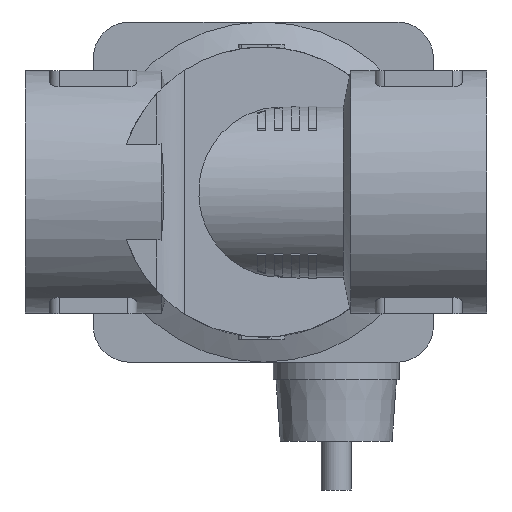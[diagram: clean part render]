
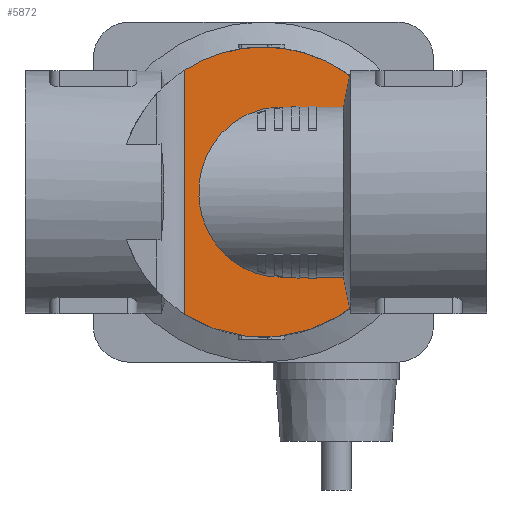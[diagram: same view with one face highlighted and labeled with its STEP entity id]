
A CAD part, front view. The second image highlights one B-rep face of the part: STEP entity #5872.
In plain terms, the highlighted planar face has unit normal (0.724, -0.69, 0).
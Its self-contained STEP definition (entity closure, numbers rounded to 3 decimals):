
#62=ELLIPSE('',#6176,43.243,29.85);
#67=ELLIPSE('',#6188,43.243,29.85);
#78=ELLIPSE('',#6218,24.186,17.5);
#85=ELLIPSE('',#6319,34.552,25.);
#86=ELLIPSE('',#6320,34.552,25.);
#121=B_SPLINE_CURVE_WITH_KNOTS('',3,(#9078,#9079,#9080,#9081),
 .UNSPECIFIED.,.F.,.F.,(4,4),(0.,0.002),
 .UNSPECIFIED.);
#122=B_SPLINE_CURVE_WITH_KNOTS('',3,(#9093,#9094,#9095,#9096),
 .UNSPECIFIED.,.F.,.F.,(4,4),(0.007,0.009),
 .UNSPECIFIED.);
#395=LINE('',#8811,#820);
#397=LINE('',#8815,#822);
#488=LINE('',#9086,#913);
#489=LINE('',#9088,#914);
#490=LINE('',#9089,#915);
#491=LINE('',#9098,#916);
#492=LINE('',#9099,#917);
#820=VECTOR('',#7108,1000.);
#822=VECTOR('',#7112,1000.);
#913=VECTOR('',#7379,1000.);
#914=VECTOR('',#7380,1000.);
#915=VECTOR('',#7381,1000.);
#916=VECTOR('',#7384,1000.);
#917=VECTOR('',#7385,1000.);
#1814=ORIENTED_EDGE('',*,*,#2972,.F.);
#1815=ORIENTED_EDGE('',*,*,#2973,.F.);
#1816=ORIENTED_EDGE('',*,*,#2974,.F.);
#1817=ORIENTED_EDGE('',*,*,#2975,.F.);
#1818=ORIENTED_EDGE('',*,*,#2746,.F.);
#1819=ORIENTED_EDGE('',*,*,#2841,.T.);
#1820=ORIENTED_EDGE('',*,*,#2770,.F.);
#1821=ORIENTED_EDGE('',*,*,#2843,.F.);
#1822=ORIENTED_EDGE('',*,*,#2976,.F.);
#1823=ORIENTED_EDGE('',*,*,#2977,.F.);
#1824=ORIENTED_EDGE('',*,*,#2978,.F.);
#1825=ORIENTED_EDGE('',*,*,#2979,.F.);
#1826=ORIENTED_EDGE('',*,*,#2816,.T.);
#1827=ORIENTED_EDGE('',*,*,#2980,.F.);
#2746=EDGE_CURVE('',#3417,#3418,#62,.F.);
#2770=EDGE_CURVE('',#3441,#3442,#67,.F.);
#2816=EDGE_CURVE('',#3488,#3487,#78,.F.);
#2841=EDGE_CURVE('',#3417,#3442,#395,.T.);
#2843=EDGE_CURVE('',#3506,#3441,#397,.T.);
#2972=EDGE_CURVE('',#3584,#3585,#121,.T.);
#2973=EDGE_CURVE('',#3586,#3584,#85,.T.);
#2974=EDGE_CURVE('',#3587,#3586,#488,.T.);
#2975=EDGE_CURVE('',#3418,#3587,#489,.T.);
#2976=EDGE_CURVE('',#3588,#3506,#490,.T.);
#2977=EDGE_CURVE('',#3589,#3588,#86,.T.);
#2978=EDGE_CURVE('',#3590,#3589,#122,.T.);
#2979=EDGE_CURVE('',#3488,#3590,#491,.T.);
#2980=EDGE_CURVE('',#3585,#3487,#492,.T.);
#3417=VERTEX_POINT('',#8523);
#3418=VERTEX_POINT('',#8525);
#3441=VERTEX_POINT('',#8612);
#3442=VERTEX_POINT('',#8614);
#3487=VERTEX_POINT('',#8745);
#3488=VERTEX_POINT('',#8747);
#3506=VERTEX_POINT('',#8814);
#3584=VERTEX_POINT('',#9082);
#3585=VERTEX_POINT('',#9083);
#3586=VERTEX_POINT('',#9085);
#3587=VERTEX_POINT('',#9087);
#3588=VERTEX_POINT('',#9090);
#3589=VERTEX_POINT('',#9092);
#3590=VERTEX_POINT('',#9097);
#4138=EDGE_LOOP('',(#1814,#1815,#1816,#1817,#1818,#1819,#1820,#1821,#1822,
#1823,#1824,#1825,#1826,#1827));
#4476=FACE_BOUND('',#4138,.T.);
#4759=PLANE('',#6318);
#5872=ADVANCED_FACE('',(#4476),#4759,.T.);
#6176=AXIS2_PLACEMENT_3D('',#8524,#6972,#6973);
#6188=AXIS2_PLACEMENT_3D('',#8613,#7000,#7001);
#6218=AXIS2_PLACEMENT_3D('',#8746,#7069,#7070);
#6318=AXIS2_PLACEMENT_3D('',#9077,#7375,#7376);
#6319=AXIS2_PLACEMENT_3D('',#9084,#7377,#7378);
#6320=AXIS2_PLACEMENT_3D('',#9091,#7382,#7383);
#6972=DIRECTION('',(0.724,-0.69,0.));
#6973=DIRECTION('',(0.69,0.724,0.));
#7000=DIRECTION('',(0.724,-0.69,0.));
#7001=DIRECTION('',(0.69,0.724,0.));
#7069=DIRECTION('',(0.724,-0.69,0.));
#7070=DIRECTION('',(-0.69,-0.724,0.));
#7108=DIRECTION('',(0.,0.,-1.));
#7112=DIRECTION('',(0.,0.,-1.));
#7375=DIRECTION('',(0.724,-0.69,0.));
#7376=DIRECTION('',(0.69,0.724,0.));
#7377=DIRECTION('',(0.724,-0.69,0.));
#7378=DIRECTION('',(0.69,0.724,0.));
#7379=DIRECTION('',(-0.69,-0.724,0.));
#7380=DIRECTION('',(0.,0.,-1.));
#7381=DIRECTION('',(0.69,0.724,0.));
#7382=DIRECTION('',(0.724,-0.69,0.));
#7383=DIRECTION('',(0.69,0.724,0.));
#7384=DIRECTION('',(0.69,0.724,0.));
#7385=DIRECTION('',(-0.69,-0.724,0.));
#8523=CARTESIAN_POINT('',(-16.136,-20.522,25.113));
#8524=CARTESIAN_POINT('',(0.,-3.608,0.));
#8525=CARTESIAN_POINT('',(23.,20.5,19.027));
#8612=CARTESIAN_POINT('',(23.,20.5,-19.027));
#8613=CARTESIAN_POINT('',(0.,-3.608,0.));
#8614=CARTESIAN_POINT('',(-16.136,-20.522,-25.113));
#8745=CARTESIAN_POINT('',(3.443,0.,17.5));
#8746=CARTESIAN_POINT('',(3.443,0.,0.));
#8747=CARTESIAN_POINT('',(3.443,0.,-17.5));
#8811=CARTESIAN_POINT('',(-16.136,-20.522,70.));
#8814=CARTESIAN_POINT('',(23.,20.5,-17.5));
#8815=CARTESIAN_POINT('',(23.,20.5,70.));
#9077=CARTESIAN_POINT('',(23.,20.5,70.));
#9078=CARTESIAN_POINT('',(18.,15.259,19.803));
#9079=CARTESIAN_POINT('',(17.861,15.113,19.036));
#9080=CARTESIAN_POINT('',(17.723,14.969,18.268));
#9081=CARTESIAN_POINT('',(17.587,14.826,17.5));
#9082=CARTESIAN_POINT('',(18.,15.259,19.803));
#9083=CARTESIAN_POINT('',(17.587,14.826,17.5));
#9084=CARTESIAN_POINT('',(3.443,0.,0.));
#9085=CARTESIAN_POINT('',(20.475,17.854,17.5));
#9086=CARTESIAN_POINT('',(23.,20.5,17.5));
#9087=CARTESIAN_POINT('',(23.,20.5,17.5));
#9088=CARTESIAN_POINT('',(23.,20.5,70.));
#9089=CARTESIAN_POINT('',(23.,20.5,-17.5));
#9090=CARTESIAN_POINT('',(20.475,17.854,-17.5));
#9091=CARTESIAN_POINT('',(3.443,0.,0.));
#9092=CARTESIAN_POINT('',(18.,15.259,-19.803));
#9093=CARTESIAN_POINT('',(17.587,14.826,-17.5));
#9094=CARTESIAN_POINT('',(17.723,14.969,-18.268));
#9095=CARTESIAN_POINT('',(17.861,15.113,-19.036));
#9096=CARTESIAN_POINT('',(18.,15.259,-19.803));
#9097=CARTESIAN_POINT('',(17.587,14.826,-17.5));
#9098=CARTESIAN_POINT('',(23.,20.5,-17.5));
#9099=CARTESIAN_POINT('',(23.,20.5,17.5));
